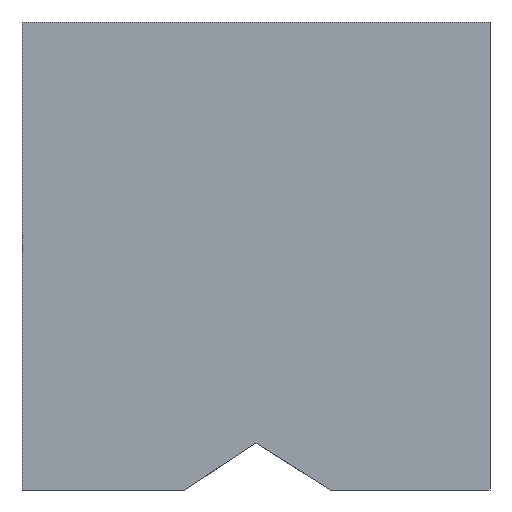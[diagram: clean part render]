
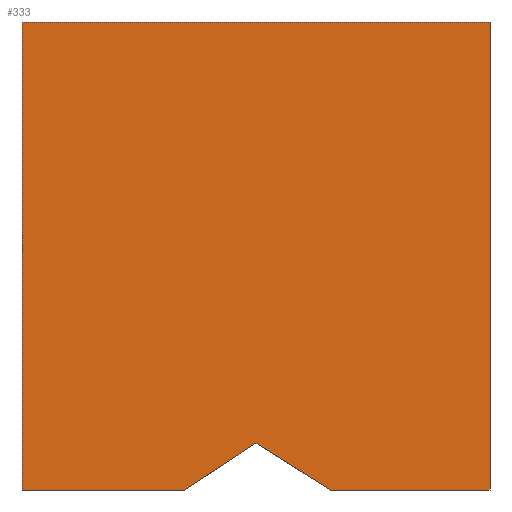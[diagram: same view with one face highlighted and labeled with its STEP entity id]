
A CAD part, left-side view. The second image highlights one B-rep face of the part: STEP entity #333.
In plain terms, the highlighted planar face has unit normal (-1, 0, 0).
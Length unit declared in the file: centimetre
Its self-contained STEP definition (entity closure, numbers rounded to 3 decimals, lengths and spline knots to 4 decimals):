
#54 = AXIS2_PLACEMENT_3D ( 'NONE', #744, #326, #79 ) ;
#58 = DIRECTION ( 'NONE',  ( 0., 0.839, -0.545 ) ) ;
#76 = PLANE ( 'NONE',  #54 ) ;
#79 = DIRECTION ( 'NONE',  ( 0., 0., -1. ) ) ;
#87 = EDGE_CURVE ( 'NONE', #181, #122, #510, .T. ) ;
#103 = VECTOR ( 'NONE', #835, 100. ) ;
#114 = EDGE_CURVE ( 'NONE', #181, #892, #737, .T. ) ;
#122 = VERTEX_POINT ( 'NONE', #149 ) ;
#134 = ORIENTED_EDGE ( 'NONE', *, *, #201, .F. ) ;
#136 = CARTESIAN_POINT ( 'NONE',  ( 0., 340.9903, 0. ) ) ;
#149 = CARTESIAN_POINT ( 'NONE',  ( 0., 0., 1000. ) ) ;
#163 = CARTESIAN_POINT ( 'NONE',  ( 0., 653.7015, 0. ) ) ;
#181 = VERTEX_POINT ( 'NONE', #977 ) ;
#201 = EDGE_CURVE ( 'NONE', #442, #695, #812, .T. ) ;
#225 = EDGE_CURVE ( 'NONE', #892, #695, #985, .T. ) ;
#250 = LINE ( 'NONE', #752, #704 ) ;
#255 = CARTESIAN_POINT ( 'NONE',  ( 0., 1000., 0. ) ) ;
#326 = DIRECTION ( 'NONE',  ( 1., 0., 0. ) ) ;
#333 = ADVANCED_FACE ( 'NONE', ( #660 ), #76, .F. ) ;
#344 = VECTOR ( 'NONE', #631, 100. ) ;
#403 = CARTESIAN_POINT ( 'NONE',  ( 0., 1000., 1000. ) ) ;
#418 = VECTOR ( 'NONE', #802, 100. ) ;
#442 = VERTEX_POINT ( 'NONE', #1023 ) ;
#467 = CARTESIAN_POINT ( 'NONE',  ( 0., 500., 99.7836 ) ) ;
#506 = DIRECTION ( 'NONE',  ( 0., 0., -1. ) ) ;
#510 = LINE ( 'NONE', #759, #891 ) ;
#511 = CARTESIAN_POINT ( 'NONE',  ( 0., 1000., 0. ) ) ;
#546 = EDGE_LOOP ( 'NONE', ( #797, #134, #938, #1057, #553, #605, #1019 ) ) ;
#553 = ORIENTED_EDGE ( 'NONE', *, *, #655, .F. ) ;
#585 = EDGE_CURVE ( 'NONE', #696, #711, #824, .T. ) ;
#605 = ORIENTED_EDGE ( 'NONE', *, *, #87, .F. ) ;
#631 = DIRECTION ( 'NONE',  ( 0., 0.847, 0.532 ) ) ;
#655 = EDGE_CURVE ( 'NONE', #122, #711, #250, .T. ) ;
#660 = FACE_OUTER_BOUND ( 'NONE', #546, .T. ) ;
#668 = DIRECTION ( 'NONE',  ( 0., -1., 0. ) ) ;
#695 = VERTEX_POINT ( 'NONE', #163 ) ;
#696 = VERTEX_POINT ( 'NONE', #834 ) ;
#703 = VECTOR ( 'NONE', #58, 100. ) ;
#704 = VECTOR ( 'NONE', #506, 100. ) ;
#711 = VERTEX_POINT ( 'NONE', #838 ) ;
#737 = LINE ( 'NONE', #403, #418 ) ;
#744 = CARTESIAN_POINT ( 'NONE',  ( 0., 1000., 1000. ) ) ;
#752 = CARTESIAN_POINT ( 'NONE',  ( 0., 0., 1000. ) ) ;
#759 = CARTESIAN_POINT ( 'NONE',  ( 0., 1000., 1000. ) ) ;
#796 = DIRECTION ( 'NONE',  ( 0., -1., 0. ) ) ;
#797 = ORIENTED_EDGE ( 'NONE', *, *, #225, .T. ) ;
#802 = DIRECTION ( 'NONE',  ( 0., 0., -1. ) ) ;
#812 = LINE ( 'NONE', #467, #703 ) ;
#824 = LINE ( 'NONE', #511, #976 ) ;
#834 = CARTESIAN_POINT ( 'NONE',  ( 0., 340.9903, 0. ) ) ;
#835 = DIRECTION ( 'NONE',  ( 0., -1., 0. ) ) ;
#838 = CARTESIAN_POINT ( 'NONE',  ( 0., 0., 0. ) ) ;
#891 = VECTOR ( 'NONE', #796, 100. ) ;
#892 = VERTEX_POINT ( 'NONE', #1063 ) ;
#895 = EDGE_CURVE ( 'NONE', #696, #442, #959, .T. ) ;
#938 = ORIENTED_EDGE ( 'NONE', *, *, #895, .F. ) ;
#959 = LINE ( 'NONE', #136, #344 ) ;
#976 = VECTOR ( 'NONE', #668, 100. ) ;
#977 = CARTESIAN_POINT ( 'NONE',  ( 0., 1000., 1000. ) ) ;
#985 = LINE ( 'NONE', #255, #103 ) ;
#1019 = ORIENTED_EDGE ( 'NONE', *, *, #114, .T. ) ;
#1023 = CARTESIAN_POINT ( 'NONE',  ( 0., 500., 99.7836 ) ) ;
#1057 = ORIENTED_EDGE ( 'NONE', *, *, #585, .T. ) ;
#1063 = CARTESIAN_POINT ( 'NONE',  ( 0., 1000., 0. ) ) ;
